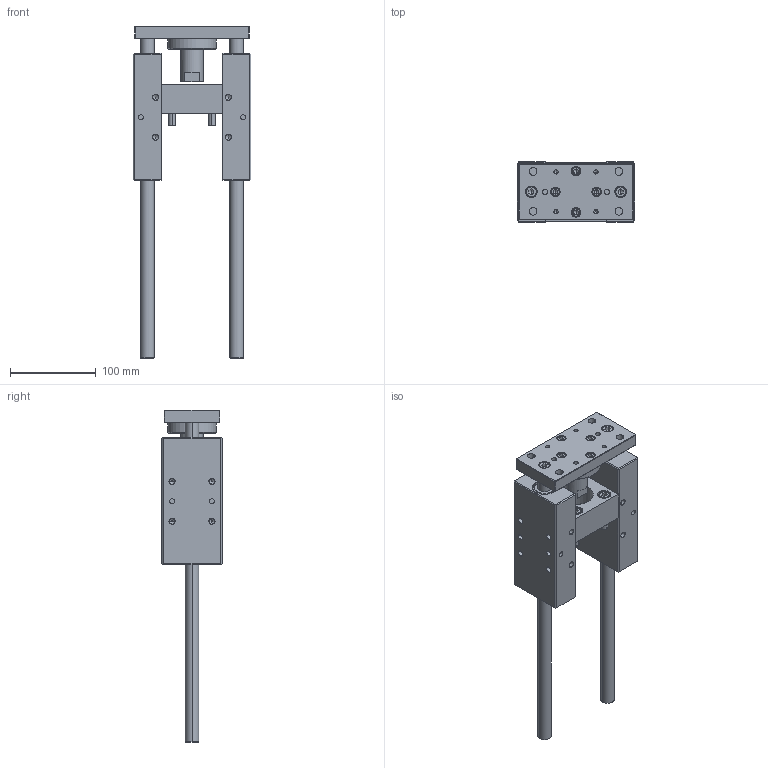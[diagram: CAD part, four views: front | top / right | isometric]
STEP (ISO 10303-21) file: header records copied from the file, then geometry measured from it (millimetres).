
FILE_DESCRIPTION (( 'STEP AP214' ), '1' );
FILE_NAME ('27_029_0.STEP', '2017-02-27T08:23:57', ( '' ), ( '' ), 'SwSTEP 2.0', 'SolidWorks 2016', '' );
FILE_SCHEMA (( 'AUTOMOTIVE_DESIGN' ));
Length unit declared in the file: millimetre
Products named in the file (1): 27_029_0
Bounding box: 137 x 70 x 387 mm (x, y, z)
Volume: 1104214.2 mm3; surface area: 189466.2 mm2
Topology: 16 solids, 24 shells, 696 faces, 1568 edges, 953 vertices
Faces by surface type: cylinder 244, plane 227, cone 189, bspline 36
Entity records: 28046 total; most frequent: CARTESIAN_POINT 4494, DIRECTION 3451, ORIENTED_EDGE 3064, EDGE_CURVE 1532, AXIS2_PLACEMENT_3D 1366, VERTEX_POINT 953, EDGE_LOOP 847, VECTOR 719
